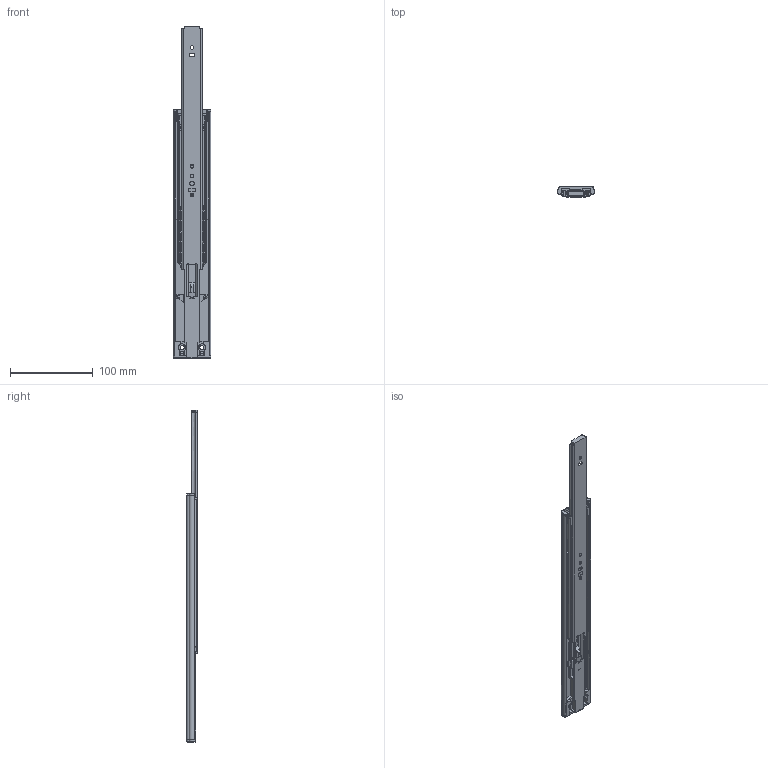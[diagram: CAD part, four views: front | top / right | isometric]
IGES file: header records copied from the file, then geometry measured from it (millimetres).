
Global section: file name: No Iges File Name specified; native system: Autodesk Inventor 2010; preprocessor: AutoDesk Inventor Iges Exporter R2010; author: jennes; date: 20110120.111211; units: millimetre
Bounding box: 45.98 x 12.5 x 402.38 mm (x, y, z)
Volume: 71362 mm3; surface area: 109253.3 mm2
Topology: 41 solids, 41 shells, 1556 faces, 4434 edges, 2781 vertices
Faces by surface type: plane 829, cylinder 355, revolution 197, sphere 68, torus 59, bspline 48
